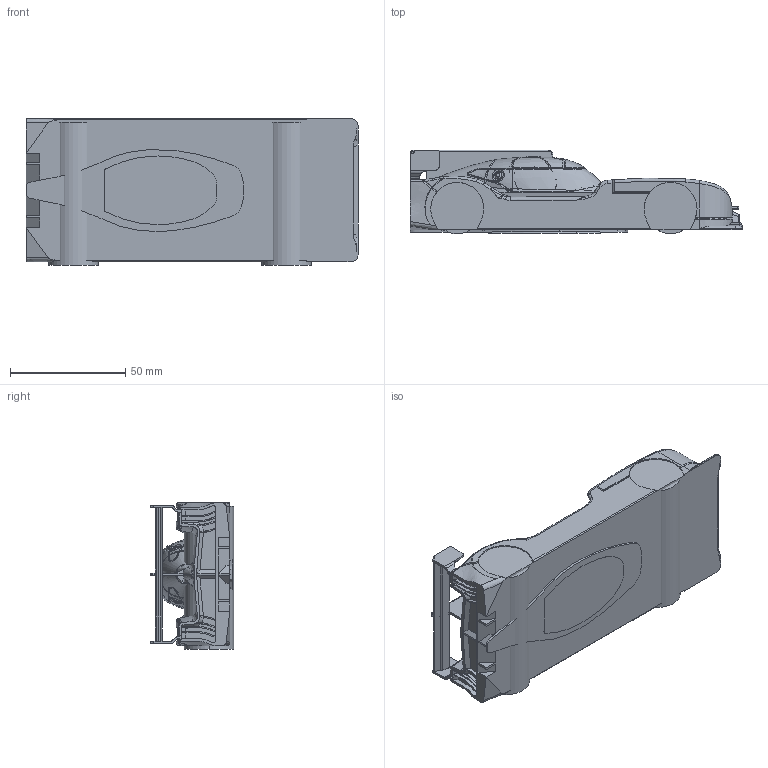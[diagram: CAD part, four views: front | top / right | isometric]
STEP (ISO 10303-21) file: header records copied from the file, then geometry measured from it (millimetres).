
FILE_DESCRIPTION (( 'STEP AP203' ), '1' );
FILE_NAME ('Nissan GT-R LM - wide rear wheels.STEP', '2020-05-11T10:58:06', ( '' ), ( '' ), 'SwSTEP 2.0', 'SolidWorks 2018', '' );
FILE_SCHEMA (( 'CONFIG_CONTROL_DESIGN' ));
Products named in the file (1): Nissan GT-R LM - wide rear wheels
Bounding box: 144 x 36.25 x 63.5 mm (x, y, z)
Volume: 235347.9 mm3; surface area: 53869.8 mm2
Topology: 10 solids, 10 shells, 1365 faces, 3636 edges, 2284 vertices
Faces by surface type: bspline 716, plane 316, cylinder 247, torus 47, cone 35, sphere 4
Entity records: 153320 total; most frequent: CARTESIAN_POINT 125535, ORIENTED_EDGE 7242, DIRECTION 3728, EDGE_CURVE 3621, VERTEX_POINT 2284, B_SPLINE_CURVE_WITH_KNOTS 1867, AXIS2_PLACEMENT_3D 1419, EDGE_LOOP 1375
